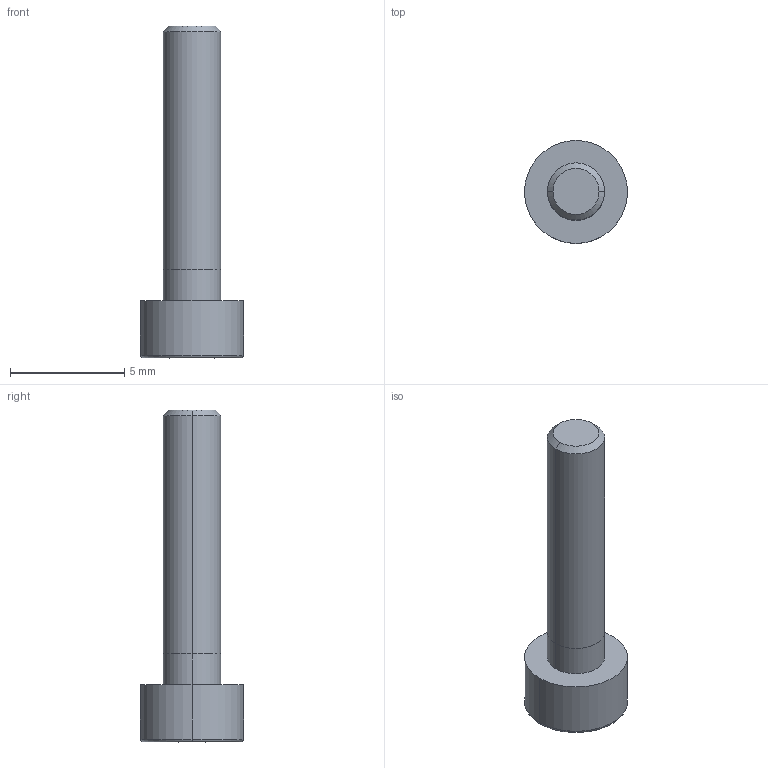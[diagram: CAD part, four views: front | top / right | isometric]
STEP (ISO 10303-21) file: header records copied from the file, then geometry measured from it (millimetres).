
FILE_DESCRIPTION(/* description */ ('VariCAD 2010-1.04 AP-203'),/* implementation_level */ '2;1');
FILE_NAME(/* name */ '0353-98-11',/* time_stamp */ '2010-01-13T14:50:12-07:00',/* author */ (''),/* organization */ (''),/* preprocessor_version */ 'ST-DEVELOPER v12',/* originating_system */ 'VariCAD 2010-1.04; kernel version (20090520)',/* authorisation */ '');
FILE_SCHEMA (('CONFIG_CONTROL_DESIGN'));
Length unit declared in the file: millimetre
Products named in the file (1): Part
Bounding box: 4.5 x 4.5 x 14.5 mm (x, y, z)
Volume: 93.5 mm3; surface area: 306.1 mm2
Topology: 2 solids, 2 shells, 35 faces, 72 edges, 41 vertices
Faces by surface type: cone 12, plane 11, cylinder 10, torus 2
Entity records: 1002 total; most frequent: CARTESIAN_POINT 229, DIRECTION 162, ORIENTED_EDGE 140, EDGE_CURVE 70, AXIS2_PLACEMENT_3D 70, VERTEX_POINT 41, EDGE_LOOP 39, ADVANCED_FACE 35
